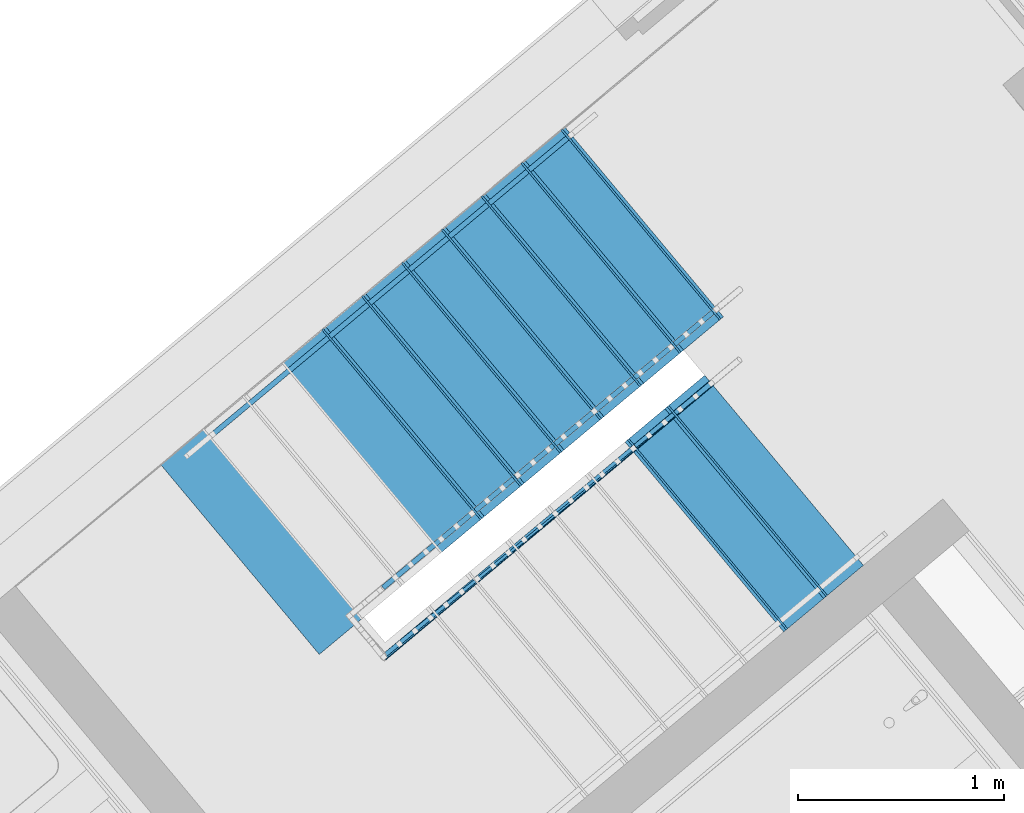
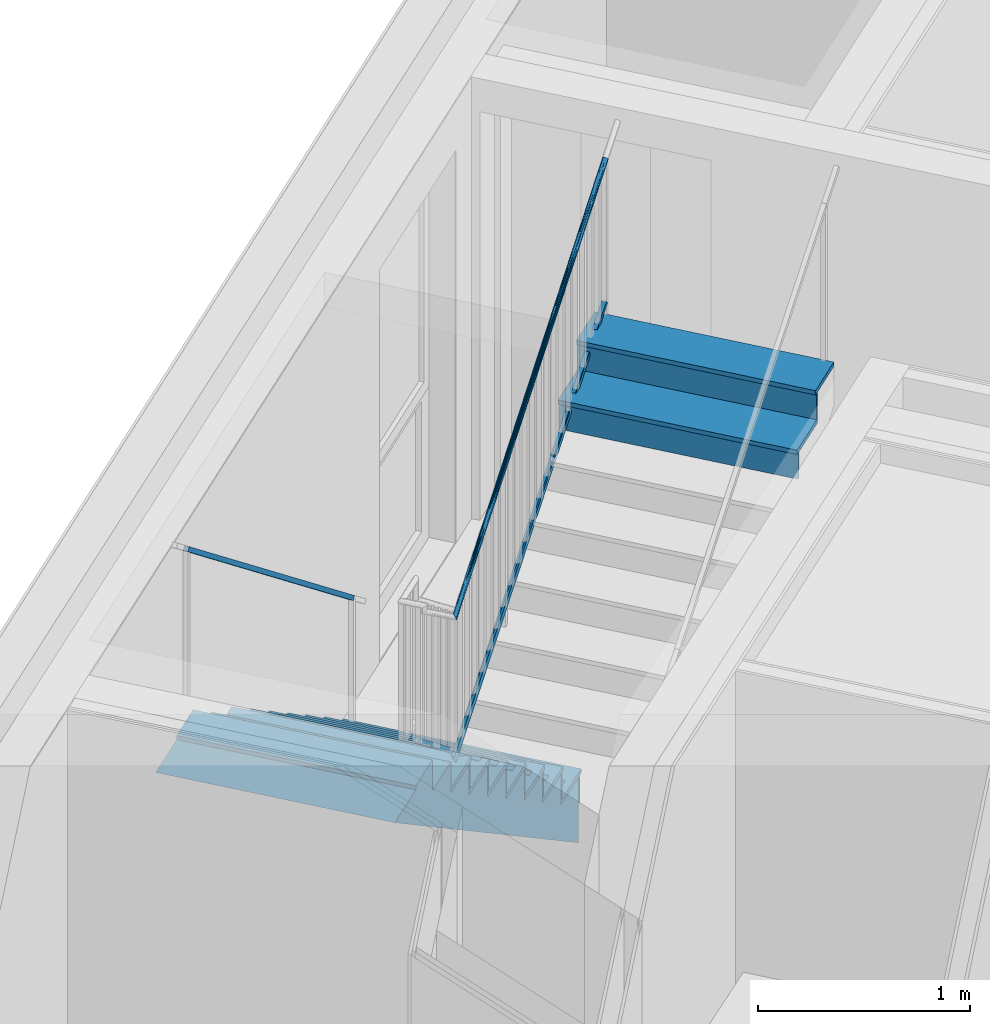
# One storey, part 35 of 61: 23 building element parts, 3 elements without a shape of their own.
"""IFC4 building model written with IfcOpenShell, lengths in metres."""

import ifcopenshell
import ifcopenshell.guid

model = None  # the IFC model being written
_history = None  # IfcOwnerHistory: only IFC2X3 demands one
_inside = {}  # id of a spatial element -> (the spatial element, [elements in it])
_under = {}  # id of a project, library or spatial element -> (it, [spatial elements below it])
_declared = {}  # id of a project -> (the project, [libraries it declares])
_typed = {}  # id of a type object -> (the type object, [elements of that type])
_made_of = {}  # id of a material, layer set ... -> (it, [elements and type objects made of it])


def new_model(schema):
    """Start an empty IFC model of exactly this schema.

    Asked for "IFC4X3", IfcOpenShell would pick the latest addendum, in which some entities
    have other attributes; the version numbers below select the first issue.
    IFC2X3 requires an IfcOwnerHistory on every rooted entity: one is made here for all.
    """
    global model, _history
    if schema == "IFC4X3":
        model = ifcopenshell.file(schema_version=(4, 3, 0, 0))
    else:
        model = ifcopenshell.file(schema=schema)
    _inside.clear()
    _under.clear()
    _declared.clear()
    _typed.clear()
    _made_of.clear()
    _history = None
    if model.schema == "IFC2X3":
        org = make("IfcOrganization", Name="unknown")
        user = make(
            "IfcPersonAndOrganization",
            ThePerson=make("IfcPerson", FamilyName="unknown"),
            TheOrganization=org,
        )
        app = make(
            "IfcApplication",
            ApplicationDeveloper=org,
            Version="unknown",
            ApplicationFullName="unknown",
            ApplicationIdentifier="unknown",
        )
        _history = make(
            "IfcOwnerHistory",
            OwningUser=user,
            OwningApplication=app,
            ChangeAction="ADDED",
            CreationDate=0,
        )
    return model


def make(cls, **values):
    """One entity of the class cls with the attributes given. An attribute that is None is left unset."""
    return model.create_entity(
        cls, **{name: value for name, value in values.items() if value is not None}
    )


def entity(cls, *values):
    """Any entity or typed value of the class cls, its attributes in the order of the schema. None: left unset."""
    e = model.create_entity(cls)
    for i, value in enumerate(values):
        if value is not None:
            e[i] = value
    return e


def rooted(cls, **values):
    """An entity with a GlobalId (a new one), such as an element, a storey or a relation."""
    return make(cls, GlobalId=ifcopenshell.guid.new(), OwnerHistory=_history, **values)


def si_unit(unit_type, name, prefix=None):
    """IfcSIUnit, for example si_unit("LENGTHUNIT", "METRE", prefix="MILLI")."""
    return make("IfcSIUnit", UnitType=unit_type, Prefix=prefix, Name=name)


def converted_unit(unit_type, name, factor, base, dimensions=None, offset=None):
    """IfcConversionBasedUnit, such as the inch: factor (a typed value) times the base unit."""
    return make(
        "IfcConversionBasedUnit"
        if offset is None
        else "IfcConversionBasedUnitWithOffset",
        ConversionOffset=offset,
        Dimensions=None
        if dimensions is None
        else entity("IfcDimensionalExponents", *dimensions),
        UnitType=unit_type,
        Name=name,
        ConversionFactor=make(
            "IfcMeasureWithUnit", ValueComponent=factor, UnitComponent=base
        ),
    )


def derived_unit(unit_type, elements):
    """IfcDerivedUnit: a product of units, each with its exponent."""
    return make(
        "IfcDerivedUnit",
        Elements=[
            make("IfcDerivedUnitElement", Unit=unit, Exponent=power)
            for unit, power in elements
        ],
        UnitType=unit_type,
    )


def assignment(units):
    """IfcUnitAssignment: the units of a project."""
    return None if units is None else make("IfcUnitAssignment", Units=units)


def point(xyz):
    """IfcCartesianPoint."""
    return None if xyz is None else make("IfcCartesianPoint", Coordinates=xyz)


def direction(xyz):
    """IfcDirection."""
    return None if xyz is None else make("IfcDirection", DirectionRatios=xyz)


def frame(location, z_axis=None, x_axis=None):
    """IfcAxis2Placement3D, a coordinate frame: its origin and axes. An axis left out is left unset."""
    return make(
        "IfcAxis2Placement3D",
        Location=point(location),
        Axis=direction(z_axis),
        RefDirection=direction(x_axis),
    )


def origin_with_axes():
    """The frame at (0, 0, 0) with the z axis (0, 0, 1) and the x axis (1, 0, 0) written out."""
    return frame((0.0, 0.0, 0.0), z_axis=(0.0, 0.0, 1.0), x_axis=(1.0, 0.0, 0.0))


def place(relative_to, where):
    """IfcLocalPlacement: puts the frame where relative to a parent placement (None: the world)."""
    return make(
        "IfcLocalPlacement", PlacementRelTo=relative_to, RelativePlacement=where
    )


def context(
    kind, dimensions, precision=None, world=None, true_north=None, identifier=None
):
    """IfcGeometricRepresentationContext, for example the 3D "Model" context."""
    return make(
        "IfcGeometricRepresentationContext",
        ContextIdentifier=identifier,
        ContextType=kind,
        CoordinateSpaceDimension=dimensions,
        Precision=precision,
        WorldCoordinateSystem=world,
        TrueNorth=true_north,
    )


def subcontext(parent, identifier, kind, view, scale=None):
    """IfcGeometricRepresentationSubContext, for example "Body" below "Model"."""
    return make(
        "IfcGeometricRepresentationSubContext",
        ContextIdentifier=identifier,
        ContextType=kind,
        ParentContext=parent,
        TargetScale=scale,
        TargetView=view,
    )


def project(units=None, contexts=None):
    """IfcProject with its units and contexts."""
    return rooted(
        "IfcProject",
        Name="project",
        RepresentationContexts=contexts,
        UnitsInContext=assignment(units),
    )


def spatial(cls, under=None, at=None, **own):
    """A site, building, storey or space (cls), placed at a placement, below another one or the project."""
    s = rooted(cls, ObjectPlacement=at, **own)
    if under is not None:
        _under.setdefault(under.id(), (under, []))[1].append(s)
    return s


def point_list(points):
    """IfcCartesianPointList2D or 3D."""
    cls = (
        "IfcCartesianPointList2D" if len(points[0]) == 2 else "IfcCartesianPointList3D"
    )
    return make(cls, CoordList=points)


def polygons(points, faces, closed=None, point_numbers=None):
    """IfcPolygonalFaceSet: a face is its outer loop, then its inner loops; points numbered from 1."""
    made = []
    for loops in faces:
        if len(loops) == 1:
            made.append(make("IfcIndexedPolygonalFace", CoordIndex=loops[0]))
        else:
            made.append(
                make(
                    "IfcIndexedPolygonalFaceWithVoids",
                    CoordIndex=loops[0],
                    InnerCoordIndices=loops[1:],
                )
            )
    return make(
        "IfcPolygonalFaceSet",
        Coordinates=point_list(points),
        Closed=closed,
        Faces=made,
        PnIndex=point_numbers,
    )


def shape(context_of_items, identifier, shape_type, items):
    """IfcShapeRepresentation: the items that make up one representation, for example the "Body"."""
    return make(
        "IfcShapeRepresentation",
        ContextOfItems=context_of_items,
        RepresentationIdentifier=identifier,
        RepresentationType=shape_type,
        Items=items,
    )


def material(Name=None, Category=None):
    """IfcMaterial."""
    return make("IfcMaterial", Name=Name, Category=Category)


def made_of(thing, what):
    """Note that an element or type object is made of a material, layer set ...; save() writes the relation."""
    if what is not None:
        _made_of.setdefault(what.id(), (what, []))[1].append(thing)
    return thing


def type_object(cls, material=None, **own):
    """A type object (cls), such as IfcWallType, which elements share."""
    return made_of(rooted(cls, **own), material)


def element(
    cls,
    number,
    at=None,
    inside=None,
    cuts=None,
    type_object=None,
    material=None,
    context=None,
    identifier="Body",
    shape_type=None,
    held_by="IfcProductDefinitionShape",
    body=None,
    shapes=None,
    **own,
):
    """One element of the class cls, such as IfcWall. Its Tag is "e" and its number.

    at: its placement. inside: the storey or other place that contains it. cuts: it is an
    opening in that element (IfcRelVoidsElement). A single representation is given by context,
    identifier, shape_type and body (its items); several are given by shapes. held_by: the class
    of the entity that holds the representations. save() writes the other relations.
    """
    e = rooted(cls, Tag="e%d" % number, ObjectPlacement=at, **own)
    if body is not None:
        shapes = [shape(context, identifier, shape_type, body)]
    if shapes is not None:
        e.Representation = make(held_by, Representations=shapes)
    if inside is not None:
        _inside.setdefault(inside.id(), (inside, []))[1].append(e)
    if cuts is not None:
        rooted(
            "IfcRelVoidsElement", RelatingBuildingElement=cuts, RelatedOpeningElement=e
        )
    if type_object is not None:
        _typed.setdefault(type_object.id(), (type_object, []))[1].append(e)
    return made_of(e, material)


def aggregate(whole, parts):
    """IfcRelAggregates: a whole, such as a stair, and the parts it consists of."""
    return rooted("IfcRelAggregates", RelatingObject=whole, RelatedObjects=parts)


def save(model, path):
    """Write the relations noted so far, then the file.

    IfcRelAggregates (storeys below a building ...), IfcRelContainedInSpatialStructure (elements
    in a storey), IfcRelDefinesByType, IfcRelAssociatesMaterial and IfcRelDeclares: one each for
    every whole, place, type object, material and project.
    """
    for whole, parts in _under.values():
        aggregate(whole, parts)
    for where, things in _inside.values():
        rooted(
            "IfcRelContainedInSpatialStructure",
            RelatedElements=things,
            RelatingStructure=where,
        )
    for kind, things in _typed.values():
        rooted("IfcRelDefinesByType", RelatedObjects=things, RelatingType=kind)
    for what, things in _made_of.values():
        rooted("IfcRelAssociatesMaterial", RelatedObjects=things, RelatingMaterial=what)
    for by, libraries in _declared.values():
        rooted("IfcRelDeclares", RelatingContext=by, RelatedDefinitions=libraries)
    model.write(path)


model = new_model("IFC4")

# Units and contexts
model_context = context("Model", 3, precision=1e-05, world=origin_with_axes(), true_north=direction((0.0, 1.0)))
body_context = subcontext(model_context, "Body", "Model", "MODEL_VIEW")
ifc_project = project(units=[si_unit("LENGTHUNIT", "METRE"), si_unit("AREAUNIT", "SQUARE_METRE"), si_unit("VOLUMEUNIT", "CUBIC_METRE"), converted_unit("PLANEANGLEUNIT", "DEGREE", entity("IfcPlaneAngleMeasure", 0.0174532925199), si_unit("PLANEANGLEUNIT", "RADIAN"), dimensions=[0, 0, 0, 0, 0, 0, 0]), converted_unit("TIMEUNIT", "Year", entity("IfcTimeMeasure", 31556926.0), si_unit("TIMEUNIT", "SECOND"), dimensions=[0, 0, 1, 0, 0, 0, 0]), si_unit("MASSUNIT", "GRAM", prefix="KILO"), si_unit("THERMODYNAMICTEMPERATUREUNIT", "DEGREE_CELSIUS"), si_unit("LUMINOUSINTENSITYUNIT", "LUMEN"), si_unit("ENERGYUNIT", "JOULE", prefix="MEGA"), derived_unit("THERMALCONDUCTANCEUNIT", [(si_unit("POWERUNIT", "WATT"), 1), (si_unit("LENGTHUNIT", "METRE"), -1), (si_unit("THERMODYNAMICTEMPERATUREUNIT", "KELVIN"), -1)]), derived_unit("SPECIFICHEATCAPACITYUNIT", [(si_unit("ENERGYUNIT", "JOULE"), 1), (si_unit("MASSUNIT", "GRAM", prefix="KILO"), -1), (si_unit("THERMODYNAMICTEMPERATUREUNIT", "KELVIN"), -1)]), derived_unit("MASSDENSITYUNIT", [(si_unit("MASSUNIT", "GRAM", prefix="KILO"), 1), (si_unit("VOLUMEUNIT", "CUBIC_METRE"), -1)])], contexts=[model_context])

# Site, building, storey, space
site_placement = place(None, frame((-0.00153261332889, -0.00661245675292, 0.0), z_axis=(0.0, 0.0, 1.0), x_axis=(1.0, 0.0, 0.0)))
site = spatial("IfcSite", under=ifc_project, at=site_placement, Name="Gelände", CompositionType="ELEMENT")
building_placement = place(site_placement, origin_with_axes())
building = spatial("IfcBuilding", under=site, at=building_placement, Name="Gebäude", CompositionType="ELEMENT")
storey_placement = place(building_placement, frame((0.0, 0.0, 5.7), z_axis=(0.0, 0.0, 1.0), x_axis=(1.0, 0.0, 0.0)))
storey = spatial("IfcBuildingStorey", under=building, at=storey_placement, Name="DG1", CompositionType="ELEMENT", Elevation=5.7)
space_placement = place(storey_placement, frame((0.280300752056, 22.6307267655, 0.22), z_axis=(0.0, 0.0, 1.0), x_axis=(-0.641244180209, 0.767336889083, 0.0)))
space = spatial("IfcSpace", under=storey, at=space_placement, CompositionType="ELEMENT", PredefinedType="NOTDEFINED")

# Railing, building element parts
railing_type = type_object("IfcRailingType", Name="Geländerart", PredefinedType="NOTDEFINED")
railing_1_placement = place(space_placement, frame((1.35982515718, -0.251690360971, -0.17), z_axis=(0.0, 0.0, 1.0), x_axis=(-0.641244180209, -0.767336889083, 0.0)))
railing_1 = element("IfcRailing", 1, at=railing_1_placement, inside=space, type_object=railing_type, Name="Geländer - 001", PredefinedType="NOTDEFINED")
ifc_material_1 = material(Name="BEKLEIDUNG")
building_element_part_1_placement = place(railing_1_placement, origin_with_axes())
building_element_part_1 = element("IfcBuildingElementPart", 2, at=building_element_part_1_placement, material=ifc_material_1, Name="BEKLEIDUNG", PredefinedType="NOTDEFINED", context=body_context, shape_type="Tessellation", body=[
    polygons([(-0.0341749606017, 0.0528904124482, 0.0798578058), (-0.0459713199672, 0.0430344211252, 0.0601421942), (-1.67725492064, -1.31992142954, 1.71753377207), (-1.65806995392, -1.30389217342, 1.7297425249), (-0.0181457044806, 0.0337054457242, 0.0798578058), (-0.029942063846, 0.0238494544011, 0.0601421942), (-1.66122566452, -1.33910639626, 1.71753377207), (-1.6420406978, -1.32307714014, 1.7297425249)], [[[1, 2, 3, 4]], [[1, 5, 6, 2]], [[2, 6, 7, 3]], [[4, 3, 7, 8]], [[5, 1, 4, 8]], [[6, 5, 8, 7]]], closed=True),
])
building_element_part_2_placement = place(railing_1_placement, origin_with_axes())
building_element_part_2 = element("IfcBuildingElementPart", 3, at=building_element_part_2_placement, material=ifc_material_1, Name="BEKLEIDUNG", PredefinedType="NOTDEFINED", context=body_context, shape_type="Tessellation", body=[
    polygons([(-1.63742845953, -1.63075810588, 2.62537536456), (-1.63846858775, -1.63088446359, 2.62789734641), (-0.0630386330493, -0.30687497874, 3.89943593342), (-1.63648900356, -1.63122206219, 2.62285338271), (-1.63567876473, -1.63226223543, 2.62040803), (-1.63502236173, -1.63384702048, 2.61811360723), (-1.63453973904, -1.63592826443, 2.61603982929), (-1.63424556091, -1.63844272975, 2.61424970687), (-1.63414876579, -1.64131401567, 2.61279763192), (-1.63425229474, -1.64445487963, 2.61172772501), (-1.63455300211, -1.64776988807, 2.61107249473), (-1.63504175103, -1.65115831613, 2.61085184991), (-1.63570369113, -1.65451720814, 2.61107249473), (-1.63651870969, -1.65774450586, 2.61172772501), (-1.63746204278, -1.66074214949, 2.61279763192), (-1.63850502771, -1.66341905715, 2.61424970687), (-1.63961597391, -1.66569389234, 2.61603982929), (-1.64076112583, -1.66749753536, 2.61811360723), (-1.64190568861, -1.66877518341, 2.62040803), (-1.64301488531, -1.66948801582, 2.62285338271), (-1.64405501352, -1.66961437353, 2.62537536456), (-1.64499446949, -1.66915041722, 2.62789734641), (-1.64580470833, -1.66811024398, 2.63034269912), (-1.64646111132, -1.66652545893, 2.63263712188), (-1.64694373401, -1.66444421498, 2.63471089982), (-1.64723791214, -1.66192974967, 2.63650102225), (-1.64733470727, -1.65905846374, 2.6379530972), (-1.64723117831, -1.65591759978, 2.6390230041), (-1.64693047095, -1.65260259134, 2.63967823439), (-1.64644172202, -1.64921416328, 2.63989887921), (-1.64577978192, -1.64585527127, 2.63967823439), (-1.64496476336, -1.64262797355, 2.6390230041), (-1.64402143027, -1.63963032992, 2.6379530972), (-1.64297844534, -1.63695342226, 2.63650102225), (-1.64186749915, -1.63467858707, 2.63471089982), (-1.64072234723, -1.63287494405, 2.63263712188), (-1.63957778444, -1.631597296, 2.63034269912), (-0.0636185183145, -0.30824141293, 3.90158839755), (-0.0621391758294, -0.305826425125, 3.89721601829), (-0.0609474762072, -0.305127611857, 3.89499610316), (-0.0594997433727, -0.304799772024, 3.89284363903), (-0.0578399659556, -0.304852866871, 3.89082402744), (-0.0560185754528, -0.305285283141, 3.88899863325), (-0.054090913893, -0.306083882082, 3.88742292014), (-0.0521155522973, -0.30722439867, 3.88614476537), (-0.0501525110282, -0.308672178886, 3.88520300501), (-0.0482614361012, -0.310383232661, 3.88462625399), (-0.0464997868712, -0.312305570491, 3.88443203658), (-0.0449210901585, -0.314380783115, 3.88462625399), (-0.043573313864, -0.316545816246, 3.88520300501), (-0.0424974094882, -0.318734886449, 3.88614476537), (-0.0417260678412, -0.320881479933, 3.88742292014), (-0.0412827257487, -0.322920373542, 3.88899863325), (-0.0411808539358, -0.324789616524, 3.89082402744), (-0.041423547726, -0.326432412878, 3.89284363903), (-0.0420034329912, -0.327798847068, 3.89499610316), (-0.0429028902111, -0.328847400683, 3.89721601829), (-0.0440945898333, -0.329546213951, 3.89943593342), (-0.0455423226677, -0.329874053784, 3.90158839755), (-0.0472021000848, -0.329820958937, 3.90360800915), (-0.0490234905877, -0.329388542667, 3.90543340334), (-0.0509511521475, -0.328589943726, 3.90700911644), (-0.0529265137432, -0.327449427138, 3.90828727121), (-0.0548895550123, -0.326001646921, 3.90922903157), (-0.0567806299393, -0.324290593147, 3.90980578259), (-0.0585422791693, -0.322368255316, 3.91), (-0.0601209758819, -0.320293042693, 3.90980578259), (-0.0614687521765, -0.318128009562, 3.90922903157), (-0.0625446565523, -0.315938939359, 3.90828727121), (-0.0633159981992, -0.313792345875, 3.90700911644), (-0.0637593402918, -0.311753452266, 3.90543340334), (-0.0638612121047, -0.309884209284, 3.90360800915)], [[[1, 2, 3]], [[1, 4, 5, 6, 7, 8, 9, 10, 11, 12, 13, 14, 15, 16, 17, 18, 19, 20, 21, 22, 23, 24, 25, 26, 27, 28, 29, 30, 31, 32, 33, 34, 35, 36, 37, 2]], [[2, 38, 3]], [[1, 3, 39]], [[4, 1, 39]], [[5, 4, 40]], [[6, 5, 41]], [[7, 6, 42]], [[8, 7, 43]], [[9, 8, 44]], [[10, 9, 45]], [[11, 10, 46]], [[12, 11, 47]], [[13, 12, 48]], [[14, 13, 49]], [[15, 14, 50]], [[16, 15, 51]], [[17, 16, 52]], [[18, 17, 53]], [[19, 18, 54]], [[20, 19, 55]], [[21, 20, 56]], [[22, 21, 57]], [[23, 22, 58]], [[24, 23, 59]], [[25, 24, 60]], [[26, 25, 61]], [[27, 26, 62]], [[28, 27, 63]], [[29, 28, 64]], [[30, 29, 65]], [[31, 30, 66]], [[32, 31, 67]], [[33, 32, 68]], [[34, 33, 69]], [[35, 34, 70]], [[36, 35, 71]], [[37, 36, 72]], [[2, 37, 38]], [[39, 3, 38, 72, 71, 70, 69, 68, 67, 66, 65, 64, 63, 62, 61, 60, 59, 58, 57, 56, 55, 54, 53, 52, 51, 50, 49, 48, 47, 46, 45, 44, 43, 42, 41, 40]], [[4, 39, 40]], [[5, 40, 41]], [[6, 41, 42]], [[7, 42, 43]], [[8, 43, 44]], [[9, 44, 45]], [[10, 45, 46]], [[11, 46, 47]], [[12, 47, 48]], [[13, 48, 49]], [[14, 49, 50]], [[15, 50, 51]], [[16, 51, 52]], [[17, 52, 53]], [[18, 53, 54]], [[19, 54, 55]], [[20, 55, 56]], [[21, 56, 57]], [[22, 57, 58]], [[23, 58, 59]], [[24, 59, 60]], [[25, 60, 61]], [[26, 61, 62]], [[27, 62, 63]], [[28, 63, 64]], [[29, 64, 65]], [[30, 65, 66]], [[31, 66, 67]], [[32, 67, 68]], [[33, 68, 69]], [[34, 69, 70]], [[35, 70, 71]], [[36, 71, 72]], [[37, 72, 38]]], closed=True),
])
building_element_part_3_placement = place(railing_1_placement, origin_with_axes())
building_element_part_3 = element("IfcBuildingElementPart", 4, at=building_element_part_3_placement, material=ifc_material_1, Name="BEKLEIDUNG", PredefinedType="NOTDEFINED", context=body_context, shape_type="Tessellation", body=[
    polygons([(-1.6539527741, -1.66459421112, 1.82200180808), (-1.64445279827, -1.66621433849, 1.79779595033), (-0.0455094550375, -0.327767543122, 3.06934668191), (-1.64843064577, -1.63221398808, 1.82200180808), (-1.63893066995, -1.63383411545, 1.79779595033), (-0.0615396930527, -0.308583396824, 3.06934668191), (-0.0555448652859, -0.336153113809, 3.09065331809), (-0.0715751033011, -0.316968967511, 3.09065331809)], [[[1, 2, 3]], [[1, 4, 5, 2]], [[2, 6, 3]], [[1, 3, 7]], [[4, 1, 7]], [[5, 4, 8]], [[2, 5, 6]], [[7, 3, 6, 8]], [[4, 7, 8]], [[5, 8, 6]]], closed=True),
])
aggregate(railing_1, [building_element_part_1, building_element_part_2, building_element_part_3])

# Railing, building element part
railing_2_placement = place(space_placement, frame((2.55982515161, -0.251805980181, -0.17), z_axis=(0.0, 0.0, 1.0), x_axis=(-0.641244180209, -0.767336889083, 0.0)))
railing_2 = element("IfcRailing", 5, at=railing_2_placement, inside=space, type_object=railing_type, Name="Geländer - 001", PredefinedType="NOTDEFINED")
building_element_part_4_placement = place(railing_2_placement, origin_with_axes())
building_element_part_4 = element("IfcBuildingElementPart", 6, at=building_element_part_4_placement, material=ifc_material_1, Name="BEKLEIDUNG", PredefinedType="NOTDEFINED", context=body_context, shape_type="Tessellation", body=[
    polygons([(0.0240438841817, -0.0287774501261, 0.9), (0.0122290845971, -0.0386488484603, 0.880303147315), (-1.72609254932, -1.49103618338, 2.65089138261), (-1.71427774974, -1.48116478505, 2.67058823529), (0.0400731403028, -0.0479624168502, 0.9), (0.0282583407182, -0.0578338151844, 0.880303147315), (-1.7100632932, -1.5102211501, 2.65089138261), (-1.69824849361, -1.50034975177, 2.67058823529)], [[[1, 2, 3, 4]], [[1, 5, 6, 2]], [[2, 6, 7, 3]], [[4, 3, 7, 8]], [[5, 1, 4, 8]], [[6, 5, 8, 7]]], closed=True),
])
aggregate(railing_2, [building_element_part_4])

# Stair, building element parts
stair_type = type_object("IfcStairType", Name="Treppentyp", PredefinedType="NOTDEFINED")
stair_placement = place(space_placement, frame((2.55980055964, -0.50704333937, -0.17), z_axis=(0.0, 0.0, 1.0), x_axis=(-0.641244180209, -0.767336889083, 0.0)))
stair = element("IfcStair", 7, at=stair_placement, inside=space, type_object=stair_type, Name="Treppe - 001", PredefinedType="NOTDEFINED")
ifc_material_2 = material(Name="Stahlbeton Decke")
building_element_part_5_placement = place(stair_placement, origin_with_axes())
building_element_part_5 = element("IfcBuildingElementPart", 8, at=building_element_part_5_placement, material=ifc_material_2, Name="Stahlbeton Decke", PredefinedType="NOTDEFINED", context=body_context, shape_type="Tessellation", body=[
    polygons([(-1.93419043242, -1.61603796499, 1.54558823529), (-1.16478618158, -2.53691636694, 1.54558823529), (-1.16478615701, -2.53691634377, 1.56852941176), (-1.93419045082, -1.61603794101, 1.56852941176), (-2.15516351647, -1.80066346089, 1.54558823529), (-1.38575924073, -2.72154184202, 1.54558823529), (-1.16478618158, -2.53691636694, 1.34302096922), (-1.10040387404, -2.48312422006, 1.28400133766), (-1.03602159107, -2.42933209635, 1.22498172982), (-0.971639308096, -2.37553997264, 1.16596212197), (-0.907257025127, -2.32174784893, 1.10694251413), (-0.842874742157, -2.26795572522, 1.04792290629), (-0.778492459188, -2.21416360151, 0.988903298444), (-0.714110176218, -2.1603714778, 0.929883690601), (-0.649727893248, -2.1065793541, 0.870864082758), (-0.585345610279, -2.05278723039, 0.811844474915), (-0.520963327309, -1.99899510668, 0.752824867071), (-0.45658104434, -1.94520298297, 0.693805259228), (-0.39219876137, -1.89141085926, 0.634785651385), (-0.3278164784, -1.83761873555, 0.575766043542), (-0.263434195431, -1.78382661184, 0.516746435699), (-0.199051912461, -1.73003448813, 0.457726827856), (-0.134669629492, -1.67624236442, 0.398707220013), (-0.0702873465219, -1.62245024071, 0.339687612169), (-0.00590506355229, -1.568658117, 0.280668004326), (0.0584772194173, -1.51486599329, 0.221648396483), (0.122859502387, -1.46107386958, 0.16262878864), (0.187241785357, -1.40728174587, 0.103609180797), (0.251624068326, -1.35348962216, 0.0445895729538), (0.316006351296, -1.29969749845, -0.0144300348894), (0.380388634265, -1.24590537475, -0.0734496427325), (0.444770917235, -1.19211325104, -0.132469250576), (0.509153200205, -1.13832112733, -0.191488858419), (0.54283953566, -1.11017581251, -0.222369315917), (0.54283953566, -1.11017581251, 0.152058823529), (0.361126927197, -1.26199874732, 0.152058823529), (0.361126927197, -1.26199874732, 0.329117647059), (0.167980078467, -1.42337511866, 0.329117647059), (0.167980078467, -1.42337511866, 0.506176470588), (-0.0251667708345, -1.58475148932, 0.506176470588), (-0.0251667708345, -1.58475148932, 0.683235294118), (-0.218313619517, -1.74612786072, 0.683235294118), (-0.218313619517, -1.74612786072, 0.860294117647), (-0.411460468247, -1.90750423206, 0.860294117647), (-0.411460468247, -1.90750423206, 1.03735294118), (-0.604607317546, -2.06888060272, 1.03735294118), (-0.604607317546, -2.06888060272, 1.21441176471), (-0.797754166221, -2.23025697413, 1.21441176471), (-0.797754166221, -2.23025697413, 1.39147058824), (-0.990901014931, -2.3916333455, 1.39147058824), (-0.990901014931, -2.3916333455, 1.56852941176), (-1.7603053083, -1.47075494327, 1.56852941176), (-1.7603053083, -1.47075494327, 1.39147058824), (-1.56715845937, -1.30937857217, 1.39147058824), (-1.56715845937, -1.30937857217, 1.21441176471), (-1.37401161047, -1.14800220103, 1.21441176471), (-1.37401161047, -1.14800220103, 1.03735294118), (-1.18086476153, -0.986625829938, 1.03735294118), (-1.18086476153, -0.986625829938, 0.860294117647), (-0.987717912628, -0.825249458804, 0.860294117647), (-0.987717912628, -0.825249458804, 0.683235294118), (-0.794571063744, -0.663873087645, 0.683235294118), (-0.794571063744, -0.663873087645, 0.506176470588), (-0.601424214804, -0.502496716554, 0.506176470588), (-0.601424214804, -0.502496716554, 0.329117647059), (-0.408277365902, -0.341120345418, 0.329117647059), (-0.408277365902, -0.341120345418, 0.152058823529), (-0.22656475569, -0.189297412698, 0.152058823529), (-0.22656475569, -0.189297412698, -0.222369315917), (-0.260251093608, -0.217442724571, -0.191488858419), (-0.324633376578, -0.27123484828, -0.132469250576), (-0.389015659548, -0.32502697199, -0.0734496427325), (-0.453397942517, -0.378819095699, -0.0144300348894), (-0.517780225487, -0.432611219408, 0.0445895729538), (-0.582162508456, -0.486403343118, 0.103609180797), (-0.646544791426, -0.540195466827, 0.16262878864), (-0.710927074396, -0.593987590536, 0.221648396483), (-0.775309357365, -0.647779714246, 0.280668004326), (-0.839691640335, -0.701571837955, 0.339687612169), (-0.904073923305, -0.755363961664, 0.398707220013), (-0.968456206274, -0.809156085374, 0.457726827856), (-1.03283848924, -0.862948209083, 0.516746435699), (-1.09722077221, -0.916740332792, 0.575766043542), (-1.16160305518, -0.970532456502, 0.634785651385), (-1.22598533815, -1.02432458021, 0.693805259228), (-1.29036762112, -1.07811670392, 0.752824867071), (-1.35474990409, -1.13190882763, 0.811844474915), (-1.41913218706, -1.18570095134, 0.870864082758), (-1.48351447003, -1.23949307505, 0.929883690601), (-1.547896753, -1.29328519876, 0.988903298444), (-1.61227903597, -1.34707732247, 1.04792290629), (-1.67666131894, -1.40086944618, 1.10694251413), (-1.74104360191, -1.45466156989, 1.16596212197), (-1.80542588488, -1.5084536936, 1.22498172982), (-1.86980816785, -1.5622458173, 1.28400133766), (-1.93419043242, -1.61603796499, 1.34302094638)], [[[1, 2, 3, 4]], [[2, 1, 5, 6]], [[7, 8, 9, 10, 11, 12, 13, 14, 15, 16, 17, 18, 19, 20, 21, 22, 23, 24, 25, 26, 27, 28, 29, 30, 31, 32, 33, 34, 35, 36, 37, 38, 39, 40, 41, 42, 43, 44, 45, 46, 47, 48, 49, 50, 51, 3, 2, 6]], [[52, 4, 3, 51]], [[1, 4, 52, 53, 54, 55, 56, 57, 58, 59, 60, 61, 62, 63, 64, 65, 66, 67, 68, 69, 70, 71, 72, 73, 74, 75, 76, 77, 78, 79, 80, 81, 82, 83, 84, 85, 86, 87, 88, 89, 90, 91, 92, 93, 94, 95, 96, 5]], [[96, 95, 8, 7, 6, 5]], [[95, 94, 9, 8]], [[94, 93, 10, 9]], [[93, 92, 11, 10]], [[92, 91, 12, 11]], [[91, 90, 13, 12]], [[90, 89, 14, 13]], [[89, 88, 15, 14]], [[88, 87, 16, 15]], [[87, 86, 17, 16]], [[86, 85, 18, 17]], [[85, 84, 19, 18]], [[84, 83, 20, 19]], [[83, 82, 21, 20]], [[82, 81, 22, 21]], [[81, 80, 23, 22]], [[80, 79, 24, 23]], [[79, 78, 25, 24]], [[78, 77, 26, 25]], [[77, 76, 27, 26]], [[76, 75, 28, 27]], [[75, 74, 29, 28]], [[74, 73, 30, 29]], [[73, 72, 31, 30]], [[72, 71, 32, 31]], [[71, 70, 33, 32]], [[70, 69, 34, 33]], [[69, 68, 35, 34]], [[36, 35, 68, 67]], [[37, 36, 67, 66]], [[65, 38, 37, 66]], [[39, 38, 65, 64]], [[63, 40, 39, 64]], [[41, 40, 63, 62]], [[61, 42, 41, 62]], [[43, 42, 61, 60]], [[59, 44, 43, 60]], [[45, 44, 59, 58]], [[57, 46, 45, 58]], [[47, 46, 57, 56]], [[55, 48, 47, 56]], [[49, 48, 55, 54]], [[53, 50, 49, 54]], [[51, 50, 53, 52]]], closed=True),
])
building_element_part_6_placement = place(stair_placement, origin_with_axes())
building_element_part_6 = element("IfcBuildingElementPart", 9, at=building_element_part_6_placement, material=ifc_material_1, Name="BEKLEIDUNG", PredefinedType="NOTDEFINED", context=body_context, shape_type="Tessellation", body=[
    polygons([(-0.207379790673, -0.173268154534, 0.152058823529), (-0.215053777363, -0.179679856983, 0.152058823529), (0.55435051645, -1.10055825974, 0.152058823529), (0.56202450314, -1.09414655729, 0.152058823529), (-0.207379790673, -0.173268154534, 0.0), (-0.215053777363, -0.179679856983, 0.0), (0.55435051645, -1.10055825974, 0.0), (0.56202450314, -1.09414655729, 0.0)], [[[1, 2, 3, 4]], [[1, 5, 6, 2]], [[2, 6, 7, 3]], [[4, 3, 7, 8]], [[5, 1, 4, 8]], [[6, 5, 8, 7]]], closed=True),
])
building_element_part_7_placement = place(stair_placement, origin_with_axes())
building_element_part_7 = element("IfcBuildingElementPart", 10, at=building_element_part_7_placement, material=ifc_material_1, Name="BEKLEIDUNG", PredefinedType="NOTDEFINED", context=body_context, shape_type="Tessellation", body=[
    polygons([(-0.400526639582, -0.334644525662, 0.329117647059), (-0.408200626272, -0.341056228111, 0.329117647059), (0.361203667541, -1.26193463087, 0.329117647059), (0.368877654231, -1.25552292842, 0.329117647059), (-0.400526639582, -0.334644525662, 0.177058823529), (-0.408200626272, -0.341056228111, 0.177058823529), (0.361203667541, -1.26193463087, 0.177058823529), (0.368877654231, -1.25552292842, 0.177058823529)], [[[1, 2, 3, 4]], [[1, 5, 6, 2]], [[2, 6, 7, 3]], [[4, 3, 7, 8]], [[5, 1, 4, 8]], [[6, 5, 8, 7]]], closed=True),
])
building_element_part_8_placement = place(stair_placement, origin_with_axes())
building_element_part_8 = element("IfcBuildingElementPart", 11, at=building_element_part_8_placement, material=ifc_material_1, Name="BEKLEIDUNG", PredefinedType="NOTDEFINED", context=body_context, shape_type="Tessellation", body=[
    polygons([(-0.593673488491, -0.49602089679, 0.506176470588), (-0.601347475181, -0.502432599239, 0.506176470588), (0.168056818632, -1.42331100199, 0.506176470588), (0.175730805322, -1.41689929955, 0.506176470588), (-0.593673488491, -0.49602089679, 0.354117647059), (-0.601347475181, -0.502432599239, 0.354117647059), (0.168056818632, -1.42331100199, 0.354117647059), (0.175730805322, -1.41689929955, 0.354117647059)], [[[1, 2, 3, 4]], [[1, 5, 6, 2]], [[2, 6, 7, 3]], [[4, 3, 7, 8]], [[5, 1, 4, 8]], [[6, 5, 8, 7]]], closed=True),
])
building_element_part_9_placement = place(stair_placement, origin_with_axes())
building_element_part_9 = element("IfcBuildingElementPart", 12, at=building_element_part_9_placement, material=ifc_material_1, Name="BEKLEIDUNG", PredefinedType="NOTDEFINED", context=body_context, shape_type="Tessellation", body=[
    polygons([(-0.7868203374, -0.657397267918, 0.683235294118), (-0.794494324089, -0.663808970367, 0.683235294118), (-0.0250900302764, -1.58468737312, 0.683235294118), (-0.0174160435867, -1.57827567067, 0.683235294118), (-0.7868203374, -0.657397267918, 0.531176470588), (-0.794494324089, -0.663808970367, 0.531176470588), (-0.0250900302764, -1.58468737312, 0.531176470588), (-0.0174160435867, -1.57827567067, 0.531176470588)], [[[1, 2, 3, 4]], [[1, 5, 6, 2]], [[2, 6, 7, 3]], [[4, 3, 7, 8]], [[5, 1, 4, 8]], [[6, 5, 8, 7]]], closed=True),
])
building_element_part_10_placement = place(stair_placement, origin_with_axes())
building_element_part_10 = element("IfcBuildingElementPart", 13, at=building_element_part_10_placement, material=ifc_material_1, Name="BEKLEIDUNG", PredefinedType="NOTDEFINED", context=body_context, shape_type="Tessellation", body=[
    polygons([(-0.979967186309, -0.818773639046, 0.860294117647), (-0.987641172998, -0.825185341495, 0.860294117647), (-0.218236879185, -1.74606374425, 0.860294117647), (-0.210562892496, -1.7396520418, 0.860294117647), (-0.979967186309, -0.818773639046, 0.708235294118), (-0.987641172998, -0.825185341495, 0.708235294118), (-0.218236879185, -1.74606374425, 0.708235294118), (-0.210562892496, -1.7396520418, 0.708235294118)], [[[1, 2, 3, 4]], [[1, 5, 6, 2]], [[2, 6, 7, 3]], [[4, 3, 7, 8]], [[5, 1, 4, 8]], [[6, 5, 8, 7]]], closed=True),
])
building_element_part_11_placement = place(stair_placement, origin_with_axes())
building_element_part_11 = element("IfcBuildingElementPart", 14, at=building_element_part_11_placement, material=ifc_material_1, Name="BEKLEIDUNG", PredefinedType="NOTDEFINED", context=body_context, shape_type="Tessellation", body=[
    polygons([(-1.17311403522, -0.980150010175, 1.03735294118), (-1.18078802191, -0.986561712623, 1.03735294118), (-0.411383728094, -1.90744011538, 1.03735294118), (-0.403709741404, -1.90102841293, 1.03735294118), (-1.17311403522, -0.980150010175, 0.885294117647), (-1.18078802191, -0.986561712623, 0.885294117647), (-0.411383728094, -1.90744011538, 0.885294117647), (-0.403709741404, -1.90102841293, 0.885294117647)], [[[1, 2, 3, 4]], [[1, 5, 6, 2]], [[2, 6, 7, 3]], [[4, 3, 7, 8]], [[5, 1, 4, 8]], [[6, 5, 8, 7]]], closed=True),
])
building_element_part_12_placement = place(stair_placement, origin_with_axes())
building_element_part_12 = element("IfcBuildingElementPart", 15, at=building_element_part_12_placement, material=ifc_material_1, Name="BEKLEIDUNG", PredefinedType="NOTDEFINED", context=body_context, shape_type="Tessellation", body=[
    polygons([(-1.36626088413, -1.1415263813, 1.21441176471), (-1.37393487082, -1.14793808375, 1.21441176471), (-0.604530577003, -2.06881648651, 1.21441176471), (-0.596856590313, -2.06240478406, 1.21441176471), (-1.36626088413, -1.1415263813, 1.06235294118), (-1.37393487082, -1.14793808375, 1.06235294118), (-0.604530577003, -2.06881648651, 1.06235294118), (-0.596856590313, -2.06240478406, 1.06235294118)], [[[1, 2, 3, 4]], [[1, 5, 6, 2]], [[2, 6, 7, 3]], [[4, 3, 7, 8]], [[5, 1, 4, 8]], [[6, 5, 8, 7]]], closed=True),
])
building_element_part_13_placement = place(stair_placement, origin_with_axes())
building_element_part_13 = element("IfcBuildingElementPart", 16, at=building_element_part_13_placement, material=ifc_material_1, Name="BEKLEIDUNG", PredefinedType="NOTDEFINED", context=body_context, shape_type="Tessellation", body=[
    polygons([(0.877617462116, -2.60252235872, 2.80794117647), (0.885291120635, -2.59611026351, 2.80794117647), (0.115839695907, -1.67527124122, 2.80794117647), (0.108166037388, -1.68168333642, 2.80794117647), (0.877617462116, -2.60252235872, 2.65588235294), (0.885291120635, -2.59611026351, 2.65588235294), (0.115839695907, -1.67527124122, 2.65588235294), (0.108166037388, -1.68168333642, 2.65588235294)], [[[1, 2, 3, 4]], [[1, 5, 6, 2]], [[2, 6, 7, 3]], [[4, 3, 7, 8]], [[5, 1, 4, 8]], [[6, 5, 8, 7]]], closed=True),
])
building_element_part_14_placement = place(stair_placement, origin_with_axes())
building_element_part_14 = element("IfcBuildingElementPart", 17, at=building_element_part_14_placement, material=ifc_material_1, Name="BEKLEIDUNG", PredefinedType="NOTDEFINED", context=body_context, shape_type="Tessellation", body=[
    polygons([(1.07075605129, -2.44113610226, 2.985), (1.07842970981, -2.43472400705, 2.985), (0.30897828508, -1.51388498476, 2.985), (0.301304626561, -1.52029707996, 2.985), (1.07075605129, -2.44113610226, 2.83294117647), (1.07842970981, -2.43472400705, 2.83294117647), (0.30897828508, -1.51388498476, 2.83294117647), (0.301304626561, -1.52029707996, 2.83294117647)], [[[1, 2, 3, 4]], [[1, 5, 6, 2]], [[2, 6, 7, 3]], [[4, 3, 7, 8]], [[5, 1, 4, 8]], [[6, 5, 8, 7]]], closed=True),
])
building_element_part_15_placement = place(stair_placement, origin_with_axes())
building_element_part_15 = element("IfcBuildingElementPart", 18, at=building_element_part_15_placement, material=ifc_material_1, Name="BEKLEIDUNG", PredefinedType="NOTDEFINED", context=body_context, shape_type="Tessellation", body=[
    polygons([(0.573535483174, -1.08452900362, 0.152058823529), (-0.195868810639, -0.163650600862, 0.152058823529), (-0.195868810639, -0.163650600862, 0.177058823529), (0.573535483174, -1.08452900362, 0.177058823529), (0.361203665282, -1.26193463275, 0.152058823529), (-0.408200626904, -0.341056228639, 0.152058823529), (-0.408200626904, -0.341056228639, 0.177058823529), (0.361203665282, -1.26193463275, 0.177058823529)], [[[1, 2, 3, 4]], [[1, 5, 6, 2]], [[2, 6, 7, 3]], [[4, 3, 7, 8]], [[5, 1, 4, 8]], [[6, 5, 8, 7]]], closed=True),
])
building_element_part_16_placement = place(stair_placement, origin_with_axes())
building_element_part_16 = element("IfcBuildingElementPart", 19, at=building_element_part_16_placement, material=ifc_material_1, Name="BEKLEIDUNG", PredefinedType="NOTDEFINED", context=body_context, shape_type="Tessellation", body=[
    polygons([(0.380388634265, -1.24590537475, 0.329117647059), (-0.389015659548, -0.32502697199, 0.329117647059), (-0.389015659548, -0.32502697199, 0.354117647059), (0.380388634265, -1.24590537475, 0.354117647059), (0.168056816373, -1.42331100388, 0.329117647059), (-0.601347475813, -0.502432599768, 0.329117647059), (-0.601347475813, -0.502432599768, 0.354117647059), (0.168056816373, -1.42331100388, 0.354117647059)], [[[1, 2, 3, 4]], [[1, 5, 6, 2]], [[2, 6, 7, 3]], [[4, 3, 7, 8]], [[5, 1, 4, 8]], [[6, 5, 8, 7]]], closed=True),
])
building_element_part_17_placement = place(stair_placement, origin_with_axes())
building_element_part_17 = element("IfcBuildingElementPart", 20, at=building_element_part_17_placement, material=ifc_material_1, Name="BEKLEIDUNG", PredefinedType="NOTDEFINED", context=body_context, shape_type="Tessellation", body=[
    polygons([(0.187241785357, -1.40728174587, 0.506176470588), (-0.582162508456, -0.486403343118, 0.506176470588), (-0.582162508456, -0.486403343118, 0.531176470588), (0.187241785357, -1.40728174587, 0.531176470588), (-0.0250900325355, -1.58468737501, 0.506176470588), (-0.794494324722, -0.663808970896, 0.506176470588), (-0.794494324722, -0.663808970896, 0.531176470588), (-0.0250900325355, -1.58468737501, 0.531176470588)], [[[1, 2, 3, 4]], [[1, 5, 6, 2]], [[2, 6, 7, 3]], [[4, 3, 7, 8]], [[5, 1, 4, 8]], [[6, 5, 8, 7]]], closed=True),
])
building_element_part_18_placement = place(stair_placement, origin_with_axes())
building_element_part_18 = element("IfcBuildingElementPart", 21, at=building_element_part_18_placement, material=ifc_material_1, Name="BEKLEIDUNG", PredefinedType="NOTDEFINED", context=body_context, shape_type="Tessellation", body=[
    polygons([(-0.00590506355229, -1.568658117, 0.683235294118), (-0.775309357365, -0.647779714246, 0.683235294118), (-0.775309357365, -0.647779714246, 0.708235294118), (-0.00590506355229, -1.568658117, 0.708235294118), (-0.218236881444, -1.74606374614, 0.683235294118), (-0.987641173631, -0.825185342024, 0.683235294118), (-0.987641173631, -0.825185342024, 0.708235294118), (-0.218236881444, -1.74606374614, 0.708235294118)], [[[1, 2, 3, 4]], [[1, 5, 6, 2]], [[2, 6, 7, 3]], [[4, 3, 7, 8]], [[5, 1, 4, 8]], [[6, 5, 8, 7]]], closed=True),
])
building_element_part_19_placement = place(stair_placement, origin_with_axes())
building_element_part_19 = element("IfcBuildingElementPart", 22, at=building_element_part_19_placement, material=ifc_material_1, Name="BEKLEIDUNG", PredefinedType="NOTDEFINED", context=body_context, shape_type="Tessellation", body=[
    polygons([(-0.199051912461, -1.73003448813, 0.860294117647), (-0.968456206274, -0.809156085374, 0.860294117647), (-0.968456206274, -0.809156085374, 0.885294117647), (-0.199051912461, -1.73003448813, 0.885294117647), (-0.411383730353, -1.90744011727, 0.860294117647), (-1.18078802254, -0.986561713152, 0.860294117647), (-1.18078802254, -0.986561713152, 0.885294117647), (-0.411383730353, -1.90744011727, 0.885294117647)], [[[1, 2, 3, 4]], [[1, 5, 6, 2]], [[2, 6, 7, 3]], [[4, 3, 7, 8]], [[5, 1, 4, 8]], [[6, 5, 8, 7]]], closed=True),
])
building_element_part_20_placement = place(stair_placement, origin_with_axes())
building_element_part_20 = element("IfcBuildingElementPart", 23, at=building_element_part_20_placement, material=ifc_material_1, Name="BEKLEIDUNG", PredefinedType="NOTDEFINED", context=body_context, shape_type="Tessellation", body=[
    polygons([(-0.39219876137, -1.89141085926, 1.03735294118), (-1.16160305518, -0.970532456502, 1.03735294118), (-1.16160305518, -0.970532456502, 1.06235294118), (-0.39219876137, -1.89141085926, 1.06235294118), (-0.604530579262, -2.06881648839, 1.03735294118), (-1.37393487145, -1.14793808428, 1.03735294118), (-1.37393487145, -1.14793808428, 1.06235294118), (-0.604530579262, -2.06881648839, 1.06235294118)], [[[1, 2, 3, 4]], [[1, 5, 6, 2]], [[2, 6, 7, 3]], [[4, 3, 7, 8]], [[5, 1, 4, 8]], [[6, 5, 8, 7]]], closed=True),
])
building_element_part_21_placement = place(stair_placement, origin_with_axes())
building_element_part_21 = element("IfcBuildingElementPart", 24, at=building_element_part_21_placement, material=ifc_material_1, Name="BEKLEIDUNG", PredefinedType="NOTDEFINED", context=body_context, shape_type="Tessellation", body=[
    polygons([(-0.585345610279, -2.05278723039, 1.21441176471), (-1.35474990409, -1.13190882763, 1.21441176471), (-1.35474990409, -1.13190882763, 1.23941176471), (-0.585345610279, -2.05278723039, 1.23941176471), (-0.797677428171, -2.23019285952, 1.21441176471), (-1.56708172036, -1.30931445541, 1.21441176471), (-1.56708172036, -1.30931445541, 1.23941176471), (-0.797677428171, -2.23019285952, 1.23941176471)], [[[1, 2, 3, 4]], [[1, 5, 6, 2]], [[2, 6, 7, 3]], [[4, 3, 7, 8]], [[5, 1, 4, 8]], [[6, 5, 8, 7]]], closed=True),
])
building_element_part_22_placement = place(stair_placement, origin_with_axes())
building_element_part_22 = element("IfcBuildingElementPart", 25, at=building_element_part_22_placement, material=ifc_material_1, Name="BEKLEIDUNG", PredefinedType="NOTDEFINED", context=body_context, shape_type="Tessellation", body=[
    polygons([(0.0966555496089, -1.69130147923, 2.80794117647), (0.866106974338, -2.61214050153, 2.80794117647), (0.866106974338, -2.61214050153, 2.83294117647), (0.0966555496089, -1.69130147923, 2.83294117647), (0.308978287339, -1.51388498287, 2.80794117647), (1.07842971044, -2.43472400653, 2.80794117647), (1.07842971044, -2.43472400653, 2.83294117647), (0.308978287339, -1.51388498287, 2.83294117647)], [[[1, 2, 3, 4]], [[1, 5, 6, 2]], [[2, 6, 7, 3]], [[4, 3, 7, 8]], [[5, 1, 4, 8]], [[6, 5, 8, 7]]], closed=True),
])
building_element_part_23_placement = place(stair_placement, origin_with_axes())
building_element_part_23 = element("IfcBuildingElementPart", 26, at=building_element_part_23_placement, material=ifc_material_1, Name="BEKLEIDUNG", PredefinedType="NOTDEFINED", context=body_context, shape_type="Tessellation", body=[
    polygons([(0.289794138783, -1.52991522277, 2.985), (1.05924556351, -2.45075424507, 2.985), (1.05924556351, -2.45075424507, 3.01), (0.289794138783, -1.52991522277, 3.01), (0.482932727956, -1.36852896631, 2.985), (1.25238415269, -2.28936798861, 2.985), (1.25238415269, -2.28936798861, 3.01), (0.482932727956, -1.36852896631, 3.01)], [[[1, 2, 3, 4]], [[1, 5, 6, 2]], [[2, 6, 7, 3]], [[4, 3, 7, 8]], [[5, 1, 4, 8]], [[6, 5, 8, 7]]], closed=True),
])
aggregate(stair, [building_element_part_5, building_element_part_6, building_element_part_7, building_element_part_8, building_element_part_9, building_element_part_10, building_element_part_11, building_element_part_12, building_element_part_13, building_element_part_14, building_element_part_15, building_element_part_16, building_element_part_17, building_element_part_18, building_element_part_19, building_element_part_20, building_element_part_21, building_element_part_22, building_element_part_23])

save(model, "model.ifc")
